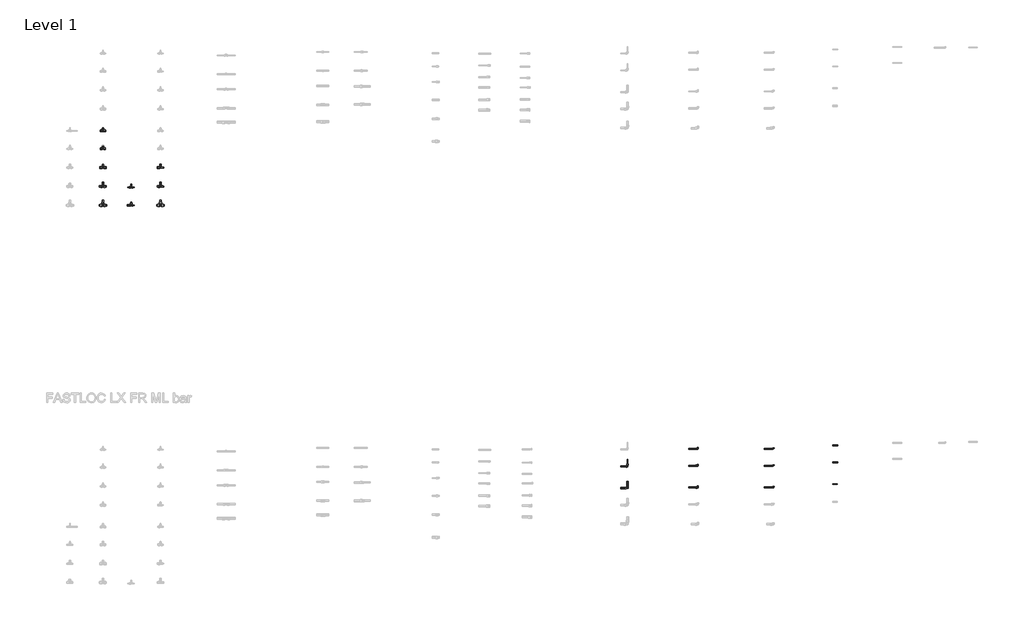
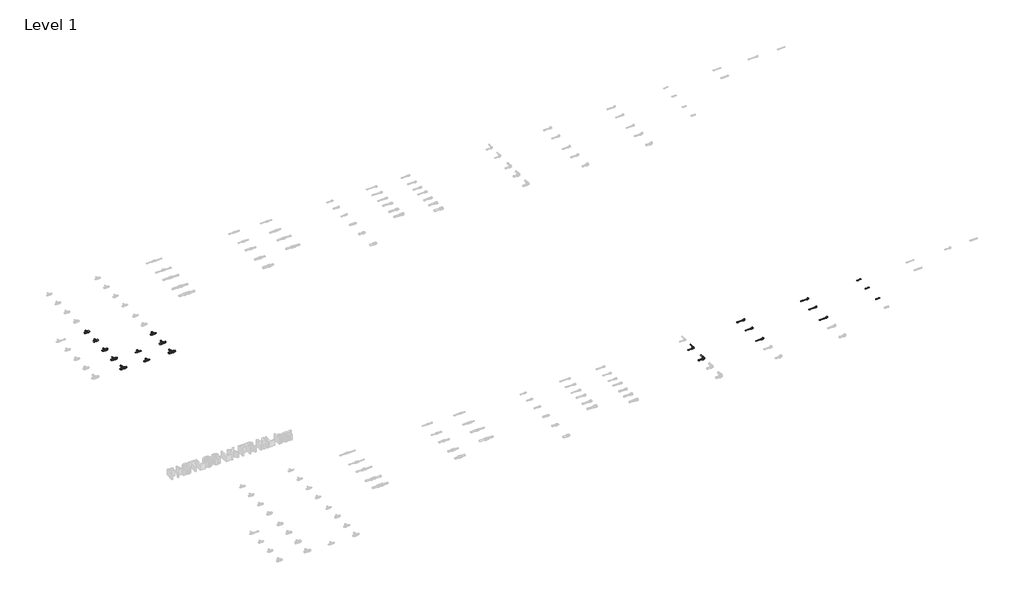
# One storey, part 12 of 78: 40 pipe segments, 18 pipe fittings.
"""IFC4 building model written with IfcOpenShell, lengths in millimetres."""

from ifc_helpers import new_model, si_unit, point, frame, frame_2d, origin, place, context, project, spatial, circle_curve, trimmed, segment, composite_curve, outline, extrude, transform, mapped, element, save
from components import pipe_fitting_8d4eabeb, pipe_fitting_310333dd, pipe_fitting_29102c59, pipe_fitting_7435f538, pipe_fitting_b40a3e3c, pipe_fitting_19df1a9e, pipe_fitting_16730f07, pipe_fitting_8d489ee2, pipe_fitting_c4e8b4db, pipe_fitting_e4b23f8c, pipe_fitting_5776f994

model = new_model("IFC4")

# Units and contexts
model_context = context("Model", 3, world=origin())
ifc_project = project(units=[si_unit("LENGTHUNIT", "METRE", prefix="MILLI")], contexts=[model_context])

# Site, building, storey
site = spatial("IfcSite", under=ifc_project)
building = spatial("IfcBuilding", under=site)
storey = spatial("IfcBuildingStorey", under=building, Name="Level 1", Elevation=0.0)

# Pipe fittings
placement = place(None, origin())
pipe_fitting_shape = pipe_fitting_8d4eabeb(model_context)
element("IfcPipeFitting", 1, ObjectType="FASTLOC_Elbow with female thread LX : FSL A internal FR", at=placement, inside=storey, context=model_context, shape_type="MappedRepresentation", body=[
    mapped(pipe_fitting_shape, transform((14636.9744513, -27124.4914884, 0.0), x_axis=(1.0, 0.0, 0.0), y_axis=(0.0, 1.0, 0.0), z_axis=(0.0, 0.0, 1.0))),
])
element("IfcPipeFitting", 2, ObjectType="FASTLOC_Elbow with female thread LX : FSL A internal FR", at=placement, inside=storey, context=model_context, shape_type="MappedRepresentation", body=[
    mapped(pipe_fitting_shape, transform((14636.9744513, -27484.4914884, 0.0), x_axis=(1.0, 0.0, 0.0), y_axis=(0.0, 1.0, 0.0), z_axis=(0.0, 0.0, 1.0))),
])
element("IfcPipeFitting", 3, ObjectType="FASTLOC_Elbow with female thread LX : FSL A internal FR", at=placement, inside=storey, context=model_context, shape_type="MappedRepresentation", body=[
    mapped(pipe_fitting_shape, transform((14636.9744513, -27944.4914884, 0.0), x_axis=(1.0, 0.0, 0.0), y_axis=(0.0, 1.0, 0.0), z_axis=(0.0, 0.0, 1.0))),
])
pipe_fitting_2_shape = pipe_fitting_310333dd(model_context)
element("IfcPipeFitting", 4, ObjectType="FASTLOC_Elbow with male thread LX : FSL A internal FR", at=placement, inside=storey, context=model_context, shape_type="MappedRepresentation", body=[
    mapped(pipe_fitting_2_shape, transform((13036.9744513, -27124.4914884, 0.0), x_axis=(1.0, 0.0, 0.0), y_axis=(0.0, 1.0, 0.0), z_axis=(0.0, 0.0, 1.0))),
])
element("IfcPipeFitting", 5, ObjectType="FASTLOC_Elbow with male thread LX : FSL A internal FR", at=placement, inside=storey, context=model_context, shape_type="MappedRepresentation", body=[
    mapped(pipe_fitting_2_shape, transform((13036.9744513, -27484.4914884, 0.0), x_axis=(1.0, 0.0, 0.0), y_axis=(0.0, 1.0, 0.0), z_axis=(0.0, 0.0, 1.0))),
])
element("IfcPipeFitting", 6, ObjectType="FASTLOC_Elbow with male thread LX : FSL A internal FR", at=placement, inside=storey, context=model_context, shape_type="MappedRepresentation", body=[
    mapped(pipe_fitting_2_shape, transform((13036.9744513, -27944.4914884, 0.0), x_axis=(1.0, 0.0, 0.0), y_axis=(0.0, 1.0, 0.0), z_axis=(0.0, 0.0, 1.0))),
])
pipe_fitting_3_shape = pipe_fitting_29102c59(model_context)
element("IfcPipeFitting", 7, ObjectType="FASTLOC_T-piece_LX : FSL T-Piece LX SK", at=placement, inside=storey, context=model_context, shape_type="MappedRepresentation", body=[
    mapped(pipe_fitting_3_shape, transform((426.7498072, -21960.2405791, 0.0), x_axis=(1.0, 0.0, 0.0), y_axis=(0.0, 1.0, 0.0), z_axis=(0.0, 0.0, 1.0))),
])
element("IfcPipeFitting", 8, ObjectType="FASTLOC_T-piece_LX : FSL T-Piece LX SK", at=placement, inside=storey, context=model_context, shape_type="MappedRepresentation", body=[
    mapped(pipe_fitting_3_shape, transform((1646.7498072, -21960.2405791, 0.0), x_axis=(1.0, 0.0, 0.0), y_axis=(0.0, 1.0, 0.0), z_axis=(0.0, 0.0, 1.0))),
])
pipe_fitting_4_shape = pipe_fitting_7435f538(model_context)
element("IfcPipeFitting", 9, ObjectType="FASTLOC_T-piece_LX : FSL T-Piece LX SK", at=placement, inside=storey, context=model_context, shape_type="MappedRepresentation", body=[
    mapped(pipe_fitting_4_shape, transform((426.7498072, -20380.2405791, 0.0), x_axis=(1.0, 0.0, 0.0), y_axis=(0.0, 1.0, 0.0), z_axis=(0.0, 0.0, 1.0))),
])
element("IfcPipeFitting", 10, ObjectType="FASTLOC_T-piece_LX : FSL T-Piece LX SK", at=placement, inside=storey, context=model_context, shape_type="MappedRepresentation", body=[
    mapped(pipe_fitting_4_shape, transform((426.7498072, -21160.2405791, 0.0), x_axis=(1.0, 0.0, 0.0), y_axis=(0.0, 1.0, 0.0), z_axis=(0.0, 0.0, 1.0))),
])
pipe_fitting_5_shape = pipe_fitting_b40a3e3c(model_context)
element("IfcPipeFitting", 11, ObjectType="FASTLOC_T-piece_LX : FSL T-Piece LX SK", at=placement, inside=storey, context=model_context, shape_type="MappedRepresentation", body=[
    mapped(pipe_fitting_5_shape, transform((426.7498072, -20760.2405791, 0.0), x_axis=(1.0, 0.0, 0.0), y_axis=(0.0, 1.0, 0.0), z_axis=(0.0, 0.0, 1.0))),
])
element("IfcPipeFitting", 12, ObjectType="FASTLOC_T-piece_LX : FSL T-Piece LX SK", at=placement, inside=storey, context=model_context, shape_type="MappedRepresentation", body=[
    mapped(pipe_fitting_5_shape, transform((426.7498072, -21560.2405791, 0.0), x_axis=(1.0, 0.0, 0.0), y_axis=(0.0, 1.0, 0.0), z_axis=(0.0, 0.0, 1.0))),
])
pipe_fitting_6_shape = pipe_fitting_19df1a9e(model_context)
element("IfcPipeFitting", 13, ObjectType="FASTLOC_T-piece_LX : FSL T-Piece LX SK", at=placement, inside=storey, context=model_context, shape_type="MappedRepresentation", body=[
    mapped(pipe_fitting_6_shape, transform((1026.7498072, -21580.2405791, 0.0), x_axis=(1.0, 0.0, 0.0), y_axis=(0.0, 1.0, 0.0), z_axis=(0.0, 0.0, 1.0))),
])
pipe_fitting_7_shape = pipe_fitting_16730f07(model_context)
element("IfcPipeFitting", 14, ObjectType="FASTLOC_T-piece_LX : FSL T-Piece LX SK", at=placement, inside=storey, context=model_context, shape_type="MappedRepresentation", body=[
    mapped(pipe_fitting_7_shape, transform((1026.7498072, -21960.2405791, 0.0), x_axis=(1.0, 0.0, 0.0), y_axis=(0.0, 1.0, 0.0), z_axis=(0.0, 0.0, 1.0))),
])
pipe_fitting_8_shape = pipe_fitting_8d489ee2(model_context)
element("IfcPipeFitting", 15, ObjectType="FASTLOC_T-piece_LX : FSL T-Piece LX SK", at=placement, inside=storey, context=model_context, shape_type="MappedRepresentation", body=[
    mapped(pipe_fitting_8_shape, transform((1646.7498072, -21160.2405791, 0.0), x_axis=(1.0, 0.0, 0.0), y_axis=(0.0, 1.0, 0.0), z_axis=(0.0, 0.0, 1.0))),
])
pipe_fitting_9_shape = pipe_fitting_c4e8b4db(model_context)
element("IfcPipeFitting", 16, ObjectType="FASTLOC_T-piece_LX : FSL T-Piece LX SK", at=placement, inside=storey, context=model_context, shape_type="MappedRepresentation", body=[
    mapped(pipe_fitting_9_shape, transform((1646.7498072, -21560.2405791, 0.0), x_axis=(1.0, 0.0, 0.0), y_axis=(0.0, 1.0, 0.0), z_axis=(0.0, 0.0, 1.0))),
])
pipe_fitting_10_shape = pipe_fitting_e4b23f8c(model_context)
element("IfcPipeFitting", 17, ObjectType="FASTLOC_Corner LX : FSL C LX FR", at=placement, inside=storey, context=model_context, shape_type="MappedRepresentation", body=[
    mapped(pipe_fitting_10_shape, transform((11545.4707441, -27498.8136389, 0.0), x_axis=(1.0, 0.0, 0.0), y_axis=(0.0, 1.0, 0.0), z_axis=(0.0, 0.0, 1.0))),
])
pipe_fitting_11_shape = pipe_fitting_5776f994(model_context)
element("IfcPipeFitting", 18, ObjectType="FASTLOC_Corner LX : FSL C LX FR", at=placement, inside=storey, context=model_context, shape_type="MappedRepresentation", body=[
    mapped(pipe_fitting_11_shape, transform((11545.4707441, -27958.8136389, 0.0), x_axis=(1.0, 0.0, 0.0), y_axis=(0.0, 1.0, 0.0), z_axis=(0.0, 0.0, 1.0))),
])

# Pipe segments
element("IfcPipeSegment", 19, ObjectType="FASTLOC LX ML SK bar", at=placement, inside=storey, context=model_context, shape_type="SweptSolid", body=[
    extrude(outline(composite_curve([segment(trimmed(circle_curve(frame_2d((-20380.2405791, 0.0)), 16.0), [point((-20396.2405791, 0.0))], [point((-20380.2405791, 16.0))], False, "CARTESIAN"), True, "CONTINUOUS"), segment(trimmed(circle_curve(frame_2d((-20380.2405791, 0.0)), 16.0), [point((-20380.2405791, 16.0))], [point((-20364.2405791, 0.0))], False, "CARTESIAN"), True, "CONTINUOUS"), segment(trimmed(circle_curve(frame_2d((-20380.2405791, 0.0)), 16.0), [point((-20364.2405791, 0.0))], [point((-20380.2405791, -16.0))], False, "CARTESIAN"), True, "CONTINUOUS"), segment(trimmed(circle_curve(frame_2d((-20380.2405791, 0.0)), 16.0), [point((-20380.2405791, -16.0))], [point((-20396.2405791, 0.0))], False, "CARTESIAN"), True, "CONTINUOUS")], self_intersect=False)), frame((446.9498072, 0.0, 0.0), z_axis=(1.0, 0.0, 0.0), x_axis=(0.0, 1.0, 0.0)), (0.0, 0.0, 1.0), 41.8),
])
element("IfcPipeSegment", 20, ObjectType="FASTLOC LX ML SK bar", at=placement, inside=storey, context=model_context, shape_type="SweptSolid", body=[
    extrude(outline(composite_curve([segment(trimmed(circle_curve(frame_2d((-20380.2405791, 0.0)), 16.0), [point((-20364.2405791, 0.0))], [point((-20380.2405791, -16.0))], False, "CARTESIAN"), True, "CONTINUOUS"), segment(trimmed(circle_curve(frame_2d((-20380.2405791, 0.0)), 16.0), [point((-20380.2405791, -16.0))], [point((-20396.2405791, 0.0))], False, "CARTESIAN"), True, "CONTINUOUS"), segment(trimmed(circle_curve(frame_2d((-20380.2405791, 0.0)), 16.0), [point((-20396.2405791, 0.0))], [point((-20380.2405791, 16.0))], False, "CARTESIAN"), True, "CONTINUOUS"), segment(trimmed(circle_curve(frame_2d((-20380.2405791, 0.0)), 16.0), [point((-20380.2405791, 16.0))], [point((-20364.2405791, 0.0))], False, "CARTESIAN"), True, "CONTINUOUS")], self_intersect=False)), frame((364.7498072, 0.0, 0.0), z_axis=(1.0, 0.0, 0.0), x_axis=(0.0, 1.0, 0.0)), (0.0, 0.0, 1.0), 41.8),
])
element("IfcPipeSegment", 21, ObjectType="FASTLOC LX ML SK bar", at=placement, inside=storey, context=model_context, shape_type="SweptSolid", body=[
    extrude(outline(composite_curve([segment(trimmed(circle_curve(frame_2d((0.0, 426.7498072)), 8.0), [point((0.0, 434.7498072))], [point((8.0, 426.7498072))], False, "CARTESIAN"), True, "CONTINUOUS"), segment(trimmed(circle_curve(frame_2d((0.0, 426.7498072)), 8.0), [point((8.0, 426.7498072))], [point((0.0, 418.7498072))], False, "CARTESIAN"), True, "CONTINUOUS"), segment(trimmed(circle_curve(frame_2d((0.0, 426.7498072)), 8.0), [point((0.0, 418.7498072))], [point((-8.0, 426.7498072))], False, "CARTESIAN"), True, "CONTINUOUS"), segment(trimmed(circle_curve(frame_2d((0.0, 426.7498072)), 8.0), [point((-8.0, 426.7498072))], [point((0.0, 434.7498072))], False, "CARTESIAN"), True, "CONTINUOUS")], self_intersect=False)), frame((0.0, -20346.2405791, 0.0), z_axis=(0.0, 1.0, 0.0), x_axis=(0.0, 0.0, 1.0)), (0.0, 0.0, 1.0), 38.3),
])
element("IfcPipeSegment", 22, ObjectType="FASTLOC LX ML SK bar", at=placement, inside=storey, context=model_context, shape_type="SweptSolid", body=[
    extrude(outline(composite_curve([segment(trimmed(circle_curve(frame_2d((-21160.2405791, 0.0)), 16.0), [point((-21176.2405791, 0.0))], [point((-21160.2405791, 16.0))], False, "CARTESIAN"), True, "CONTINUOUS"), segment(trimmed(circle_curve(frame_2d((-21160.2405791, 0.0)), 16.0), [point((-21160.2405791, 16.0))], [point((-21144.2405791, 0.0))], False, "CARTESIAN"), True, "CONTINUOUS"), segment(trimmed(circle_curve(frame_2d((-21160.2405791, 0.0)), 16.0), [point((-21144.2405791, 0.0))], [point((-21160.2405791, -16.0))], False, "CARTESIAN"), True, "CONTINUOUS"), segment(trimmed(circle_curve(frame_2d((-21160.2405791, 0.0)), 16.0), [point((-21160.2405791, -16.0))], [point((-21176.2405791, 0.0))], False, "CARTESIAN"), True, "CONTINUOUS")], self_intersect=False)), frame((446.9498072, 0.0, 0.0), z_axis=(1.0, 0.0, 0.0), x_axis=(0.0, 1.0, 0.0)), (0.0, 0.0, 1.0), 48.8),
])
element("IfcPipeSegment", 23, ObjectType="FASTLOC LX ML SK bar", at=placement, inside=storey, context=model_context, shape_type="SweptSolid", body=[
    extrude(outline(composite_curve([segment(trimmed(circle_curve(frame_2d((-21160.2405791, 0.0)), 16.0), [point((-21144.2405791, 0.0))], [point((-21160.2405791, -16.0))], False, "CARTESIAN"), True, "CONTINUOUS"), segment(trimmed(circle_curve(frame_2d((-21160.2405791, 0.0)), 16.0), [point((-21160.2405791, -16.0))], [point((-21176.2405791, 0.0))], False, "CARTESIAN"), True, "CONTINUOUS"), segment(trimmed(circle_curve(frame_2d((-21160.2405791, 0.0)), 16.0), [point((-21176.2405791, 0.0))], [point((-21160.2405791, 16.0))], False, "CARTESIAN"), True, "CONTINUOUS"), segment(trimmed(circle_curve(frame_2d((-21160.2405791, 0.0)), 16.0), [point((-21160.2405791, 16.0))], [point((-21144.2405791, 0.0))], False, "CARTESIAN"), True, "CONTINUOUS")], self_intersect=False)), frame((357.7498072, 0.0, 0.0), z_axis=(1.0, 0.0, 0.0), x_axis=(0.0, 1.0, 0.0)), (0.0, 0.0, 1.0), 48.8),
])
element("IfcPipeSegment", 24, ObjectType="FASTLOC LX ML SK bar", at=placement, inside=storey, context=model_context, shape_type="SweptSolid", body=[
    extrude(outline(composite_curve([segment(trimmed(circle_curve(frame_2d((0.0, 426.7498072)), 8.0), [point((0.0, 434.7498072))], [point((8.0, 426.7498072))], False, "CARTESIAN"), True, "CONTINUOUS"), segment(trimmed(circle_curve(frame_2d((0.0, 426.7498072)), 8.0), [point((8.0, 426.7498072))], [point((0.0, 418.7498072))], False, "CARTESIAN"), True, "CONTINUOUS"), segment(trimmed(circle_curve(frame_2d((0.0, 426.7498072)), 8.0), [point((0.0, 418.7498072))], [point((-8.0, 426.7498072))], False, "CARTESIAN"), True, "CONTINUOUS"), segment(trimmed(circle_curve(frame_2d((0.0, 426.7498072)), 8.0), [point((-8.0, 426.7498072))], [point((0.0, 434.7498072))], False, "CARTESIAN"), True, "CONTINUOUS")], self_intersect=False)), frame((0.0, -21126.2405791, 0.0), z_axis=(0.0, 1.0, 0.0), x_axis=(0.0, 0.0, 1.0)), (0.0, 0.0, 1.0), 38.3),
])
element("IfcPipeSegment", 25, ObjectType="FASTLOC LX ML SK bar", at=placement, inside=storey, context=model_context, shape_type="SweptSolid", body=[
    extrude(outline(composite_curve([segment(trimmed(circle_curve(frame_2d((-21560.2405791, 0.0)), 16.0), [point((-21576.2405791, 0.0))], [point((-21560.2405791, 16.0))], False, "CARTESIAN"), True, "CONTINUOUS"), segment(trimmed(circle_curve(frame_2d((-21560.2405791, 0.0)), 16.0), [point((-21560.2405791, 16.0))], [point((-21544.2405791, 0.0))], False, "CARTESIAN"), True, "CONTINUOUS"), segment(trimmed(circle_curve(frame_2d((-21560.2405791, 0.0)), 16.0), [point((-21544.2405791, 0.0))], [point((-21560.2405791, -16.0))], False, "CARTESIAN"), True, "CONTINUOUS"), segment(trimmed(circle_curve(frame_2d((-21560.2405791, 0.0)), 16.0), [point((-21560.2405791, -16.0))], [point((-21576.2405791, 0.0))], False, "CARTESIAN"), True, "CONTINUOUS")], self_intersect=False)), frame((448.7498072, 0.0, 0.0), z_axis=(1.0, 0.0, 0.0), x_axis=(0.0, 1.0, 0.0)), (0.0, 0.0, 1.0), 51.6),
])
element("IfcPipeSegment", 26, ObjectType="FASTLOC LX ML SK bar", at=placement, inside=storey, context=model_context, shape_type="SweptSolid", body=[
    extrude(outline(composite_curve([segment(trimmed(circle_curve(frame_2d((-21560.2405791, 0.0)), 16.0), [point((-21544.2405791, 0.0))], [point((-21560.2405791, -16.0))], False, "CARTESIAN"), True, "CONTINUOUS"), segment(trimmed(circle_curve(frame_2d((-21560.2405791, 0.0)), 16.0), [point((-21560.2405791, -16.0))], [point((-21576.2405791, 0.0))], False, "CARTESIAN"), True, "CONTINUOUS"), segment(trimmed(circle_curve(frame_2d((-21560.2405791, 0.0)), 16.0), [point((-21576.2405791, 0.0))], [point((-21560.2405791, 16.0))], False, "CARTESIAN"), True, "CONTINUOUS"), segment(trimmed(circle_curve(frame_2d((-21560.2405791, 0.0)), 16.0), [point((-21560.2405791, 16.0))], [point((-21544.2405791, 0.0))], False, "CARTESIAN"), True, "CONTINUOUS")], self_intersect=False)), frame((353.1498072, 0.0, 0.0), z_axis=(1.0, 0.0, 0.0), x_axis=(0.0, 1.0, 0.0)), (0.0, 0.0, 1.0), 51.6),
])
element("IfcPipeSegment", 27, ObjectType="FASTLOC LX ML SK bar", at=placement, inside=storey, context=model_context, shape_type="SweptSolid", body=[
    extrude(outline(composite_curve([segment(trimmed(circle_curve(frame_2d((0.0, 426.7498072)), 12.5), [point((0.0, 439.2498072))], [point((12.5, 426.7498072))], False, "CARTESIAN"), True, "CONTINUOUS"), segment(trimmed(circle_curve(frame_2d((0.0, 426.7498072)), 12.5), [point((12.5, 426.7498072))], [point((0.0, 414.2498072))], False, "CARTESIAN"), True, "CONTINUOUS"), segment(trimmed(circle_curve(frame_2d((0.0, 426.7498072)), 12.5), [point((0.0, 414.2498072))], [point((-12.5, 426.7498072))], False, "CARTESIAN"), True, "CONTINUOUS"), segment(trimmed(circle_curve(frame_2d((0.0, 426.7498072)), 12.5), [point((-12.5, 426.7498072))], [point((0.0, 439.2498072))], False, "CARTESIAN"), True, "CONTINUOUS")], self_intersect=False)), frame((0.0, -21525.8405791, 0.0), z_axis=(0.0, 1.0, 0.0), x_axis=(0.0, 0.0, 1.0)), (0.0, 0.0, 1.0), 53.4),
])
element("IfcPipeSegment", 28, ObjectType="FASTLOC LX ML SK bar", at=placement, inside=storey, context=model_context, shape_type="SweptSolid", body=[
    extrude(outline(composite_curve([segment(trimmed(circle_curve(frame_2d((-21960.2405791, 0.0)), 16.0), [point((-21976.2405791, 0.0))], [point((-21960.2405791, 16.0))], False, "CARTESIAN"), True, "CONTINUOUS"), segment(trimmed(circle_curve(frame_2d((-21960.2405791, 0.0)), 16.0), [point((-21960.2405791, 16.0))], [point((-21944.2405791, 0.0))], False, "CARTESIAN"), True, "CONTINUOUS"), segment(trimmed(circle_curve(frame_2d((-21960.2405791, 0.0)), 16.0), [point((-21944.2405791, 0.0))], [point((-21960.2405791, -16.0))], False, "CARTESIAN"), True, "CONTINUOUS"), segment(trimmed(circle_curve(frame_2d((-21960.2405791, 0.0)), 16.0), [point((-21960.2405791, -16.0))], [point((-21976.2405791, 0.0))], False, "CARTESIAN"), True, "CONTINUOUS")], self_intersect=False)), frame((451.5498072, 0.0, 0.0), z_axis=(1.0, 0.0, 0.0), x_axis=(0.0, 1.0, 0.0)), (0.0, 0.0, 1.0), 56.6),
])
element("IfcPipeSegment", 29, ObjectType="FASTLOC LX ML SK bar", at=placement, inside=storey, context=model_context, shape_type="SweptSolid", body=[
    extrude(outline(composite_curve([segment(trimmed(circle_curve(frame_2d((-21960.2405791, 0.0)), 16.0), [point((-21944.2405791, 0.0))], [point((-21960.2405791, -16.0))], False, "CARTESIAN"), True, "CONTINUOUS"), segment(trimmed(circle_curve(frame_2d((-21960.2405791, 0.0)), 16.0), [point((-21960.2405791, -16.0))], [point((-21976.2405791, 0.0))], False, "CARTESIAN"), True, "CONTINUOUS"), segment(trimmed(circle_curve(frame_2d((-21960.2405791, 0.0)), 16.0), [point((-21976.2405791, 0.0))], [point((-21960.2405791, 16.0))], False, "CARTESIAN"), True, "CONTINUOUS"), segment(trimmed(circle_curve(frame_2d((-21960.2405791, 0.0)), 16.0), [point((-21960.2405791, 16.0))], [point((-21944.2405791, 0.0))], False, "CARTESIAN"), True, "CONTINUOUS")], self_intersect=False)), frame((345.3498072, 0.0, 0.0), z_axis=(1.0, 0.0, 0.0), x_axis=(0.0, 1.0, 0.0)), (0.0, 0.0, 1.0), 56.6),
])
element("IfcPipeSegment", 30, ObjectType="FASTLOC LX ML SK bar", at=placement, inside=storey, context=model_context, shape_type="SweptSolid", body=[
    extrude(outline(composite_curve([segment(trimmed(circle_curve(frame_2d((0.0, 426.7498072)), 16.0), [point((0.0, 442.7498072))], [point((16.0, 426.7498072))], False, "CARTESIAN"), True, "CONTINUOUS"), segment(trimmed(circle_curve(frame_2d((0.0, 426.7498072)), 16.0), [point((16.0, 426.7498072))], [point((0.0, 410.7498072))], False, "CARTESIAN"), True, "CONTINUOUS"), segment(trimmed(circle_curve(frame_2d((0.0, 426.7498072)), 16.0), [point((0.0, 410.7498072))], [point((-16.0, 426.7498072))], False, "CARTESIAN"), True, "CONTINUOUS"), segment(trimmed(circle_curve(frame_2d((0.0, 426.7498072)), 16.0), [point((-16.0, 426.7498072))], [point((0.0, 442.7498072))], False, "CARTESIAN"), True, "CONTINUOUS")], self_intersect=False)), frame((0.0, -21924.1405791, 0.0), z_axis=(0.0, 1.0, 0.0), x_axis=(0.0, 0.0, 1.0)), (0.0, 0.0, 1.0), 71.5),
])
element("IfcPipeSegment", 31, ObjectType="FASTLOC LX ML SK bar", at=placement, inside=storey, context=model_context, shape_type="SweptSolid", body=[
    extrude(outline(composite_curve([segment(trimmed(circle_curve(frame_2d((-21580.2405791, 0.0)), 8.0), [point((-21588.2405791, 0.0))], [point((-21580.2405791, 8.0))], False, "CARTESIAN"), True, "CONTINUOUS"), segment(trimmed(circle_curve(frame_2d((-21580.2405791, 0.0)), 8.0), [point((-21580.2405791, 8.0))], [point((-21572.2405791, 0.0))], False, "CARTESIAN"), True, "CONTINUOUS"), segment(trimmed(circle_curve(frame_2d((-21580.2405791, 0.0)), 8.0), [point((-21572.2405791, 0.0))], [point((-21580.2405791, -8.0))], False, "CARTESIAN"), True, "CONTINUOUS"), segment(trimmed(circle_curve(frame_2d((-21580.2405791, 0.0)), 8.0), [point((-21580.2405791, -8.0))], [point((-21588.2405791, 0.0))], False, "CARTESIAN"), True, "CONTINUOUS")], self_intersect=False)), frame((1043.7498072, 0.0, 0.0), z_axis=(1.0, 0.0, 0.0), x_axis=(0.0, 1.0, 0.0)), (0.0, 0.0, 1.0), 45.0),
])
element("IfcPipeSegment", 32, ObjectType="FASTLOC LX ML SK bar", at=placement, inside=storey, context=model_context, shape_type="SweptSolid", body=[
    extrude(outline(composite_curve([segment(trimmed(circle_curve(frame_2d((-21580.2405791, 0.0)), 8.0), [point((-21572.2405791, 0.0))], [point((-21580.2405791, -8.0))], False, "CARTESIAN"), True, "CONTINUOUS"), segment(trimmed(circle_curve(frame_2d((-21580.2405791, 0.0)), 8.0), [point((-21580.2405791, -8.0))], [point((-21588.2405791, 0.0))], False, "CARTESIAN"), True, "CONTINUOUS"), segment(trimmed(circle_curve(frame_2d((-21580.2405791, 0.0)), 8.0), [point((-21588.2405791, 0.0))], [point((-21580.2405791, 8.0))], False, "CARTESIAN"), True, "CONTINUOUS"), segment(trimmed(circle_curve(frame_2d((-21580.2405791, 0.0)), 8.0), [point((-21580.2405791, 8.0))], [point((-21572.2405791, 0.0))], False, "CARTESIAN"), True, "CONTINUOUS")], self_intersect=False)), frame((949.3498072, 0.0, 0.0), z_axis=(1.0, 0.0, 0.0), x_axis=(0.0, 1.0, 0.0)), (0.0, 0.0, 1.0), 60.0),
])
element("IfcPipeSegment", 33, ObjectType="FASTLOC LX ML SK bar", at=placement, inside=storey, context=model_context, shape_type="SweptSolid", body=[
    extrude(outline(composite_curve([segment(trimmed(circle_curve(frame_2d((0.0, 1026.7498072)), 8.0), [point((0.0, 1034.7498072))], [point((8.0, 1026.7498072))], False, "CARTESIAN"), True, "CONTINUOUS"), segment(trimmed(circle_curve(frame_2d((0.0, 1026.7498072)), 8.0), [point((8.0, 1026.7498072))], [point((0.0, 1018.7498072))], False, "CARTESIAN"), True, "CONTINUOUS"), segment(trimmed(circle_curve(frame_2d((0.0, 1026.7498072)), 8.0), [point((0.0, 1018.7498072))], [point((-8.0, 1026.7498072))], False, "CARTESIAN"), True, "CONTINUOUS"), segment(trimmed(circle_curve(frame_2d((0.0, 1026.7498072)), 8.0), [point((-8.0, 1026.7498072))], [point((0.0, 1034.7498072))], False, "CARTESIAN"), True, "CONTINUOUS")], self_intersect=False)), frame((0.0, -21553.8405791, 0.0), z_axis=(0.0, 1.0, 0.0), x_axis=(0.0, 0.0, 1.0)), (0.0, 0.0, 1.0), 45.9),
])
element("IfcPipeSegment", 34, ObjectType="FASTLOC LX ML SK bar", at=placement, inside=storey, context=model_context, shape_type="SweptSolid", body=[
    extrude(outline(composite_curve([segment(trimmed(circle_curve(frame_2d((-21960.2405791, 0.0)), 8.0), [point((-21968.2405791, 0.0))], [point((-21960.2405791, 8.0))], False, "CARTESIAN"), True, "CONTINUOUS"), segment(trimmed(circle_curve(frame_2d((-21960.2405791, 0.0)), 8.0), [point((-21960.2405791, 8.0))], [point((-21952.2405791, 0.0))], False, "CARTESIAN"), True, "CONTINUOUS"), segment(trimmed(circle_curve(frame_2d((-21960.2405791, 0.0)), 8.0), [point((-21952.2405791, 0.0))], [point((-21960.2405791, -8.0))], False, "CARTESIAN"), True, "CONTINUOUS"), segment(trimmed(circle_curve(frame_2d((-21960.2405791, 0.0)), 8.0), [point((-21960.2405791, -8.0))], [point((-21968.2405791, 0.0))], False, "CARTESIAN"), True, "CONTINUOUS")], self_intersect=False)), frame((1045.5498072, 0.0, 0.0), z_axis=(1.0, 0.0, 0.0), x_axis=(0.0, 1.0, 0.0)), (0.0, 0.0, 1.0), 43.2),
])
element("IfcPipeSegment", 35, ObjectType="FASTLOC LX ML SK bar", at=placement, inside=storey, context=model_context, shape_type="SweptSolid", body=[
    extrude(outline(composite_curve([segment(trimmed(circle_curve(frame_2d((-21960.2405791, 0.0)), 12.5), [point((-21947.7405791, 0.0))], [point((-21960.2405791, -12.5))], False, "CARTESIAN"), True, "CONTINUOUS"), segment(trimmed(circle_curve(frame_2d((-21960.2405791, 0.0)), 12.5), [point((-21960.2405791, -12.5))], [point((-21972.7405791, 0.0))], False, "CARTESIAN"), True, "CONTINUOUS"), segment(trimmed(circle_curve(frame_2d((-21960.2405791, 0.0)), 12.5), [point((-21972.7405791, 0.0))], [point((-21960.2405791, 12.5))], False, "CARTESIAN"), True, "CONTINUOUS"), segment(trimmed(circle_curve(frame_2d((-21960.2405791, 0.0)), 12.5), [point((-21960.2405791, 12.5))], [point((-21947.7405791, 0.0))], False, "CARTESIAN"), True, "CONTINUOUS")], self_intersect=False)), frame((944.3498072, 0.0, 0.0), z_axis=(1.0, 0.0, 0.0), x_axis=(0.0, 1.0, 0.0)), (0.0, 0.0, 1.0), 62.3),
])
element("IfcPipeSegment", 36, ObjectType="FASTLOC LX ML SK bar", at=placement, inside=storey, context=model_context, shape_type="SweptSolid", body=[
    extrude(outline(composite_curve([segment(trimmed(circle_curve(frame_2d((0.0, 1026.7498072)), 12.5), [point((0.0, 1039.2498072))], [point((12.5, 1026.7498072))], False, "CARTESIAN"), True, "CONTINUOUS"), segment(trimmed(circle_curve(frame_2d((0.0, 1026.7498072)), 12.5), [point((12.5, 1026.7498072))], [point((0.0, 1014.2498072))], False, "CARTESIAN"), True, "CONTINUOUS"), segment(trimmed(circle_curve(frame_2d((0.0, 1026.7498072)), 12.5), [point((0.0, 1014.2498072))], [point((-12.5, 1026.7498072))], False, "CARTESIAN"), True, "CONTINUOUS"), segment(trimmed(circle_curve(frame_2d((0.0, 1026.7498072)), 12.5), [point((-12.5, 1026.7498072))], [point((0.0, 1039.2498072))], False, "CARTESIAN"), True, "CONTINUOUS")], self_intersect=False)), frame((0.0, -21930.7405791, 0.0), z_axis=(0.0, 1.0, 0.0), x_axis=(0.0, 0.0, 1.0)), (0.0, 0.0, 1.0), 42.8),
])
element("IfcPipeSegment", 37, ObjectType="FASTLOC LX ML SK bar", at=placement, inside=storey, context=model_context, shape_type="SweptSolid", body=[
    extrude(outline(composite_curve([segment(trimmed(circle_curve(frame_2d((-21160.2405791, 0.0)), 8.0), [point((-21168.2405791, 0.0))], [point((-21160.2405791, 8.0))], False, "CARTESIAN"), True, "CONTINUOUS"), segment(trimmed(circle_curve(frame_2d((-21160.2405791, 0.0)), 8.0), [point((-21160.2405791, 8.0))], [point((-21152.2405791, 0.0))], False, "CARTESIAN"), True, "CONTINUOUS"), segment(trimmed(circle_curve(frame_2d((-21160.2405791, 0.0)), 8.0), [point((-21152.2405791, 0.0))], [point((-21160.2405791, -8.0))], False, "CARTESIAN"), True, "CONTINUOUS"), segment(trimmed(circle_curve(frame_2d((-21160.2405791, 0.0)), 8.0), [point((-21160.2405791, -8.0))], [point((-21168.2405791, 0.0))], False, "CARTESIAN"), True, "CONTINUOUS")], self_intersect=False)), frame((1665.9498072, 0.0, 0.0), z_axis=(1.0, 0.0, 0.0), x_axis=(0.0, 1.0, 0.0)), (0.0, 0.0, 1.0), 49.8),
])
element("IfcPipeSegment", 38, ObjectType="FASTLOC LX ML SK bar", at=placement, inside=storey, context=model_context, shape_type="SweptSolid", body=[
    extrude(outline(composite_curve([segment(trimmed(circle_curve(frame_2d((-21160.2405791, 0.0)), 16.0), [point((-21144.2405791, 0.0))], [point((-21160.2405791, -16.0))], False, "CARTESIAN"), True, "CONTINUOUS"), segment(trimmed(circle_curve(frame_2d((-21160.2405791, 0.0)), 16.0), [point((-21160.2405791, -16.0))], [point((-21176.2405791, 0.0))], False, "CARTESIAN"), True, "CONTINUOUS"), segment(trimmed(circle_curve(frame_2d((-21160.2405791, 0.0)), 16.0), [point((-21176.2405791, 0.0))], [point((-21160.2405791, 16.0))], False, "CARTESIAN"), True, "CONTINUOUS"), segment(trimmed(circle_curve(frame_2d((-21160.2405791, 0.0)), 16.0), [point((-21160.2405791, 16.0))], [point((-21144.2405791, 0.0))], False, "CARTESIAN"), True, "CONTINUOUS")], self_intersect=False)), frame((1577.7498072, 0.0, 0.0), z_axis=(1.0, 0.0, 0.0), x_axis=(0.0, 1.0, 0.0)), (0.0, 0.0, 1.0), 46.9),
])
element("IfcPipeSegment", 39, ObjectType="FASTLOC LX ML SK bar", at=placement, inside=storey, context=model_context, shape_type="SweptSolid", body=[
    extrude(outline(composite_curve([segment(trimmed(circle_curve(frame_2d((0.0, 1646.7498072)), 12.5), [point((0.0, 1659.2498072))], [point((12.5, 1646.7498072))], False, "CARTESIAN"), True, "CONTINUOUS"), segment(trimmed(circle_curve(frame_2d((0.0, 1646.7498072)), 12.5), [point((12.5, 1646.7498072))], [point((0.0, 1634.2498072))], False, "CARTESIAN"), True, "CONTINUOUS"), segment(trimmed(circle_curve(frame_2d((0.0, 1646.7498072)), 12.5), [point((0.0, 1634.2498072))], [point((-12.5, 1646.7498072))], False, "CARTESIAN"), True, "CONTINUOUS"), segment(trimmed(circle_curve(frame_2d((0.0, 1646.7498072)), 12.5), [point((-12.5, 1646.7498072))], [point((0.0, 1659.2498072))], False, "CARTESIAN"), True, "CONTINUOUS")], self_intersect=False)), frame((0.0, -21125.8405791, 0.0), z_axis=(0.0, 1.0, 0.0), x_axis=(0.0, 0.0, 1.0)), (0.0, 0.0, 1.0), 37.9),
])
element("IfcPipeSegment", 40, ObjectType="FASTLOC LX ML SK bar", at=placement, inside=storey, context=model_context, shape_type="SweptSolid", body=[
    extrude(outline(composite_curve([segment(trimmed(circle_curve(frame_2d((-21560.2405791, 0.0)), 12.5), [point((-21572.7405791, 0.0))], [point((-21560.2405791, 12.5))], False, "CARTESIAN"), True, "CONTINUOUS"), segment(trimmed(circle_curve(frame_2d((-21560.2405791, 0.0)), 12.5), [point((-21560.2405791, 12.5))], [point((-21547.7405791, 0.0))], False, "CARTESIAN"), True, "CONTINUOUS"), segment(trimmed(circle_curve(frame_2d((-21560.2405791, 0.0)), 12.5), [point((-21547.7405791, 0.0))], [point((-21560.2405791, -12.5))], False, "CARTESIAN"), True, "CONTINUOUS"), segment(trimmed(circle_curve(frame_2d((-21560.2405791, 0.0)), 12.5), [point((-21560.2405791, -12.5))], [point((-21572.7405791, 0.0))], False, "CARTESIAN"), True, "CONTINUOUS")], self_intersect=False)), frame((1666.8498072, 0.0, 0.0), z_axis=(1.0, 0.0, 0.0), x_axis=(0.0, 1.0, 0.0)), (0.0, 0.0, 1.0), 53.5),
])
element("IfcPipeSegment", 41, ObjectType="FASTLOC LX ML SK bar", at=placement, inside=storey, context=model_context, shape_type="SweptSolid", body=[
    extrude(outline(composite_curve([segment(trimmed(circle_curve(frame_2d((-21560.2405791, 0.0)), 16.0), [point((-21544.2405791, 0.0))], [point((-21560.2405791, -16.0))], False, "CARTESIAN"), True, "CONTINUOUS"), segment(trimmed(circle_curve(frame_2d((-21560.2405791, 0.0)), 16.0), [point((-21560.2405791, -16.0))], [point((-21576.2405791, 0.0))], False, "CARTESIAN"), True, "CONTINUOUS"), segment(trimmed(circle_curve(frame_2d((-21560.2405791, 0.0)), 16.0), [point((-21576.2405791, 0.0))], [point((-21560.2405791, 16.0))], False, "CARTESIAN"), True, "CONTINUOUS"), segment(trimmed(circle_curve(frame_2d((-21560.2405791, 0.0)), 16.0), [point((-21560.2405791, 16.0))], [point((-21544.2405791, 0.0))], False, "CARTESIAN"), True, "CONTINUOUS")], self_intersect=False)), frame((1573.1498072, 0.0, 0.0), z_axis=(1.0, 0.0, 0.0), x_axis=(0.0, 1.0, 0.0)), (0.0, 0.0, 1.0), 51.5),
])
element("IfcPipeSegment", 42, ObjectType="FASTLOC LX ML SK bar", at=placement, inside=storey, context=model_context, shape_type="SweptSolid", body=[
    extrude(outline(composite_curve([segment(trimmed(circle_curve(frame_2d((0.0, 1646.7498072)), 12.5), [point((0.0, 1659.2498072))], [point((12.5, 1646.7498072))], False, "CARTESIAN"), True, "CONTINUOUS"), segment(trimmed(circle_curve(frame_2d((0.0, 1646.7498072)), 12.5), [point((12.5, 1646.7498072))], [point((0.0, 1634.2498072))], False, "CARTESIAN"), True, "CONTINUOUS"), segment(trimmed(circle_curve(frame_2d((0.0, 1646.7498072)), 12.5), [point((0.0, 1634.2498072))], [point((-12.5, 1646.7498072))], False, "CARTESIAN"), True, "CONTINUOUS"), segment(trimmed(circle_curve(frame_2d((0.0, 1646.7498072)), 12.5), [point((-12.5, 1646.7498072))], [point((0.0, 1659.2498072))], False, "CARTESIAN"), True, "CONTINUOUS")], self_intersect=False)), frame((0.0, -21525.8405791, 0.0), z_axis=(0.0, 1.0, 0.0), x_axis=(0.0, 0.0, 1.0)), (0.0, 0.0, 1.0), 53.4),
])
element("IfcPipeSegment", 43, ObjectType="FASTLOC LX ML SK bar", at=placement, inside=storey, context=model_context, shape_type="SweptSolid", body=[
    extrude(outline(composite_curve([segment(trimmed(circle_curve(frame_2d((-21960.2405791, 0.0)), 16.0), [point((-21976.2405791, 0.0))], [point((-21960.2405791, 16.0))], False, "CARTESIAN"), True, "CONTINUOUS"), segment(trimmed(circle_curve(frame_2d((-21960.2405791, 0.0)), 16.0), [point((-21960.2405791, 16.0))], [point((-21944.2405791, 0.0))], False, "CARTESIAN"), True, "CONTINUOUS"), segment(trimmed(circle_curve(frame_2d((-21960.2405791, 0.0)), 16.0), [point((-21944.2405791, 0.0))], [point((-21960.2405791, -16.0))], False, "CARTESIAN"), True, "CONTINUOUS"), segment(trimmed(circle_curve(frame_2d((-21960.2405791, 0.0)), 16.0), [point((-21960.2405791, -16.0))], [point((-21976.2405791, 0.0))], False, "CARTESIAN"), True, "CONTINUOUS")], self_intersect=False)), frame((1671.5498072, 0.0, 0.0), z_axis=(1.0, 0.0, 0.0), x_axis=(0.0, 1.0, 0.0)), (0.0, 0.0, 1.0), 56.6),
])
element("IfcPipeSegment", 44, ObjectType="FASTLOC LX ML SK bar", at=placement, inside=storey, context=model_context, shape_type="SweptSolid", body=[
    extrude(outline(composite_curve([segment(trimmed(circle_curve(frame_2d((-21960.2405791, 0.0)), 16.0), [point((-21944.2405791, 0.0))], [point((-21960.2405791, -16.0))], False, "CARTESIAN"), True, "CONTINUOUS"), segment(trimmed(circle_curve(frame_2d((-21960.2405791, 0.0)), 16.0), [point((-21960.2405791, -16.0))], [point((-21976.2405791, 0.0))], False, "CARTESIAN"), True, "CONTINUOUS"), segment(trimmed(circle_curve(frame_2d((-21960.2405791, 0.0)), 16.0), [point((-21976.2405791, 0.0))], [point((-21960.2405791, 16.0))], False, "CARTESIAN"), True, "CONTINUOUS"), segment(trimmed(circle_curve(frame_2d((-21960.2405791, 0.0)), 16.0), [point((-21960.2405791, 16.0))], [point((-21944.2405791, 0.0))], False, "CARTESIAN"), True, "CONTINUOUS")], self_intersect=False)), frame((1565.3498072, 0.0, 0.0), z_axis=(1.0, 0.0, 0.0), x_axis=(0.0, 1.0, 0.0)), (0.0, 0.0, 1.0), 56.6),
])
element("IfcPipeSegment", 45, ObjectType="FASTLOC LX ML SK bar", at=placement, inside=storey, context=model_context, shape_type="SweptSolid", body=[
    extrude(outline(composite_curve([segment(trimmed(circle_curve(frame_2d((0.0, 1646.7498072)), 16.0), [point((0.0, 1662.7498072))], [point((16.0, 1646.7498072))], False, "CARTESIAN"), True, "CONTINUOUS"), segment(trimmed(circle_curve(frame_2d((0.0, 1646.7498072)), 16.0), [point((16.0, 1646.7498072))], [point((0.0, 1630.7498072))], False, "CARTESIAN"), True, "CONTINUOUS"), segment(trimmed(circle_curve(frame_2d((0.0, 1646.7498072)), 16.0), [point((0.0, 1630.7498072))], [point((-16.0, 1646.7498072))], False, "CARTESIAN"), True, "CONTINUOUS"), segment(trimmed(circle_curve(frame_2d((0.0, 1646.7498072)), 16.0), [point((-16.0, 1646.7498072))], [point((0.0, 1662.7498072))], False, "CARTESIAN"), True, "CONTINUOUS")], self_intersect=False)), frame((0.0, -21924.1405791, 0.0), z_axis=(0.0, 1.0, 0.0), x_axis=(0.0, 0.0, 1.0)), (0.0, 0.0, 1.0), 71.5),
])
element("IfcPipeSegment", 46, ObjectType="FASTLOC LX ML FR bar", at=placement, inside=storey, context=model_context, shape_type="SweptSolid", body=[
    extrude(outline(composite_curve([segment(trimmed(circle_curve(frame_2d((-27498.8136389, 0.0)), 8.0), [point((-27490.8136389, 0.0))], [point((-27498.8136389, -8.0))], False, "CARTESIAN"), True, "CONTINUOUS"), segment(trimmed(circle_curve(frame_2d((-27498.8136389, 0.0)), 8.0), [point((-27498.8136389, -8.0))], [point((-27506.8136389, 0.0))], False, "CARTESIAN"), True, "CONTINUOUS"), segment(trimmed(circle_curve(frame_2d((-27498.8136389, 0.0)), 8.0), [point((-27506.8136389, 0.0))], [point((-27498.8136389, 8.0))], False, "CARTESIAN"), True, "CONTINUOUS"), segment(trimmed(circle_curve(frame_2d((-27498.8136389, 0.0)), 8.0), [point((-27498.8136389, 8.0))], [point((-27490.8136389, 0.0))], False, "CARTESIAN"), True, "CONTINUOUS")], self_intersect=False)), frame((11403.3707441, 0.0, 0.0), z_axis=(1.0, 0.0, 0.0), x_axis=(0.0, 1.0, 0.0)), (0.0, 0.0, 1.0), 117.5),
])
element("IfcPipeSegment", 47, ObjectType="FASTLOC LX ML FR bar", at=placement, inside=storey, context=model_context, shape_type="SweptSolid", body=[
    extrude(outline(composite_curve([segment(trimmed(circle_curve(frame_2d((0.0, 11545.4707441)), 8.0), [point((0.0, 11553.4707441))], [point((8.0, 11545.4707441))], False, "CARTESIAN"), True, "CONTINUOUS"), segment(trimmed(circle_curve(frame_2d((0.0, 11545.4707441)), 8.0), [point((8.0, 11545.4707441))], [point((0.0, 11537.4707441))], False, "CARTESIAN"), True, "CONTINUOUS"), segment(trimmed(circle_curve(frame_2d((0.0, 11545.4707441)), 8.0), [point((0.0, 11537.4707441))], [point((-8.0, 11545.4707441))], False, "CARTESIAN"), True, "CONTINUOUS"), segment(trimmed(circle_curve(frame_2d((0.0, 11545.4707441)), 8.0), [point((-8.0, 11545.4707441))], [point((0.0, 11553.4707441))], False, "CARTESIAN"), True, "CONTINUOUS")], self_intersect=False)), frame((0.0, -27474.2136389, 0.0), z_axis=(0.0, 1.0, 0.0), x_axis=(0.0, 0.0, 1.0)), (0.0, 0.0, 1.0), 122.5),
])
element("IfcPipeSegment", 48, ObjectType="FASTLOC LX ML FR bar", at=placement, inside=storey, context=model_context, shape_type="SweptSolid", body=[
    extrude(outline(composite_curve([segment(trimmed(circle_curve(frame_2d((-27958.8136389, 0.0)), 12.5), [point((-27946.3136389, 0.0))], [point((-27958.8136389, -12.5))], False, "CARTESIAN"), True, "CONTINUOUS"), segment(trimmed(circle_curve(frame_2d((-27958.8136389, 0.0)), 12.5), [point((-27958.8136389, -12.5))], [point((-27971.3136389, 0.0))], False, "CARTESIAN"), True, "CONTINUOUS"), segment(trimmed(circle_curve(frame_2d((-27958.8136389, 0.0)), 12.5), [point((-27971.3136389, 0.0))], [point((-27958.8136389, 12.5))], False, "CARTESIAN"), True, "CONTINUOUS"), segment(trimmed(circle_curve(frame_2d((-27958.8136389, 0.0)), 12.5), [point((-27958.8136389, 12.5))], [point((-27946.3136389, 0.0))], False, "CARTESIAN"), True, "CONTINUOUS")], self_intersect=False)), frame((11403.3707441, 0.0, 0.0), z_axis=(1.0, 0.0, 0.0), x_axis=(0.0, 1.0, 0.0)), (0.0, 0.0, 1.0), 113.1),
])
element("IfcPipeSegment", 49, ObjectType="FASTLOC LX ML FR bar", at=placement, inside=storey, context=model_context, shape_type="SweptSolid", body=[
    extrude(outline(composite_curve([segment(trimmed(circle_curve(frame_2d((0.0, 11545.4707441)), 12.5), [point((0.0, 11557.9707441))], [point((12.5, 11545.4707441))], False, "CARTESIAN"), True, "CONTINUOUS"), segment(trimmed(circle_curve(frame_2d((0.0, 11545.4707441)), 12.5), [point((12.5, 11545.4707441))], [point((0.0, 11532.9707441))], False, "CARTESIAN"), True, "CONTINUOUS"), segment(trimmed(circle_curve(frame_2d((0.0, 11545.4707441)), 12.5), [point((0.0, 11532.9707441))], [point((-12.5, 11545.4707441))], False, "CARTESIAN"), True, "CONTINUOUS"), segment(trimmed(circle_curve(frame_2d((0.0, 11545.4707441)), 12.5), [point((-12.5, 11545.4707441))], [point((0.0, 11557.9707441))], False, "CARTESIAN"), True, "CONTINUOUS")], self_intersect=False)), frame((0.0, -27929.8136389, 0.0), z_axis=(0.0, 1.0, 0.0), x_axis=(0.0, 0.0, 1.0)), (0.0, 0.0, 1.0), 118.1),
])
element("IfcPipeSegment", 50, ObjectType="FASTLOC LX ML FR bar", at=placement, inside=storey, context=model_context, shape_type="SweptSolid", body=[
    extrude(outline(composite_curve([segment(trimmed(circle_curve(frame_2d((-27124.4914884, 0.0)), 8.0), [point((-27116.4914884, 0.0))], [point((-27124.4914884, -8.0))], False, "CARTESIAN"), True, "CONTINUOUS"), segment(trimmed(circle_curve(frame_2d((-27124.4914884, 0.0)), 8.0), [point((-27124.4914884, -8.0))], [point((-27132.4914884, 0.0))], False, "CARTESIAN"), True, "CONTINUOUS"), segment(trimmed(circle_curve(frame_2d((-27124.4914884, 0.0)), 8.0), [point((-27132.4914884, 0.0))], [point((-27124.4914884, 8.0))], False, "CARTESIAN"), True, "CONTINUOUS"), segment(trimmed(circle_curve(frame_2d((-27124.4914884, 0.0)), 8.0), [point((-27124.4914884, 8.0))], [point((-27116.4914884, 0.0))], False, "CARTESIAN"), True, "CONTINUOUS")], self_intersect=False)), frame((12846.7744513, 0.0, 0.0), z_axis=(1.0, 0.0, 0.0), x_axis=(0.0, 1.0, 0.0)), (0.0, 0.0, 1.0), 170.0),
])
element("IfcPipeSegment", 51, ObjectType="FASTLOC LX ML FR bar", at=placement, inside=storey, context=model_context, shape_type="SweptSolid", body=[
    extrude(outline(composite_curve([segment(trimmed(circle_curve(frame_2d((-27484.4914884, 0.0)), 8.0), [point((-27476.4914884, 0.0))], [point((-27484.4914884, -8.0))], False, "CARTESIAN"), True, "CONTINUOUS"), segment(trimmed(circle_curve(frame_2d((-27484.4914884, 0.0)), 8.0), [point((-27484.4914884, -8.0))], [point((-27492.4914884, 0.0))], False, "CARTESIAN"), True, "CONTINUOUS"), segment(trimmed(circle_curve(frame_2d((-27484.4914884, 0.0)), 8.0), [point((-27492.4914884, 0.0))], [point((-27484.4914884, 8.0))], False, "CARTESIAN"), True, "CONTINUOUS"), segment(trimmed(circle_curve(frame_2d((-27484.4914884, 0.0)), 8.0), [point((-27484.4914884, 8.0))], [point((-27476.4914884, 0.0))], False, "CARTESIAN"), True, "CONTINUOUS")], self_intersect=False)), frame((12846.7744513, 0.0, 0.0), z_axis=(1.0, 0.0, 0.0), x_axis=(0.0, 1.0, 0.0)), (0.0, 0.0, 1.0), 170.0),
])
element("IfcPipeSegment", 52, ObjectType="FASTLOC LX ML FR bar", at=placement, inside=storey, context=model_context, shape_type="SweptSolid", body=[
    extrude(outline(composite_curve([segment(trimmed(circle_curve(frame_2d((-27944.4914884, 0.0)), 8.0), [point((-27936.4914884, 0.0))], [point((-27944.4914884, -8.0))], False, "CARTESIAN"), True, "CONTINUOUS"), segment(trimmed(circle_curve(frame_2d((-27944.4914884, 0.0)), 8.0), [point((-27944.4914884, -8.0))], [point((-27952.4914884, 0.0))], False, "CARTESIAN"), True, "CONTINUOUS"), segment(trimmed(circle_curve(frame_2d((-27944.4914884, 0.0)), 8.0), [point((-27952.4914884, 0.0))], [point((-27944.4914884, 8.0))], False, "CARTESIAN"), True, "CONTINUOUS"), segment(trimmed(circle_curve(frame_2d((-27944.4914884, 0.0)), 8.0), [point((-27944.4914884, 8.0))], [point((-27936.4914884, 0.0))], False, "CARTESIAN"), True, "CONTINUOUS")], self_intersect=False)), frame((12846.7744513, 0.0, 0.0), z_axis=(1.0, 0.0, 0.0), x_axis=(0.0, 1.0, 0.0)), (0.0, 0.0, 1.0), 170.0),
])
element("IfcPipeSegment", 53, ObjectType="FASTLOC LX ML FR bar", at=placement, inside=storey, context=model_context, shape_type="SweptSolid", body=[
    extrude(outline(composite_curve([segment(trimmed(circle_curve(frame_2d((-27054.4604595, 0.0)), 8.0), [point((-27046.4604595, 0.0))], [point((-27054.4604595, -8.0))], False, "CARTESIAN"), True, "CONTINUOUS"), segment(trimmed(circle_curve(frame_2d((-27054.4604595, 0.0)), 8.0), [point((-27054.4604595, -8.0))], [point((-27062.4604595, 0.0))], False, "CARTESIAN"), True, "CONTINUOUS"), segment(trimmed(circle_curve(frame_2d((-27054.4604595, 0.0)), 8.0), [point((-27062.4604595, 0.0))], [point((-27054.4604595, 8.0))], False, "CARTESIAN"), True, "CONTINUOUS"), segment(trimmed(circle_curve(frame_2d((-27054.4604595, 0.0)), 8.0), [point((-27054.4604595, 8.0))], [point((-27046.4604595, 0.0))], False, "CARTESIAN"), True, "CONTINUOUS")], self_intersect=False)), frame((15898.9809397, 0.0, 0.0), z_axis=(1.0, 0.0, 0.0), x_axis=(0.0, 1.0, 0.0)), (0.0, 0.0, 1.0), 99.5),
])
element("IfcPipeSegment", 54, ObjectType="FASTLOC LX ML FR bar", at=placement, inside=storey, context=model_context, shape_type="SweptSolid", body=[
    extrude(outline(composite_curve([segment(trimmed(circle_curve(frame_2d((-27414.4604595, 0.0)), 8.0), [point((-27406.4604595, 0.0))], [point((-27414.4604595, -8.0))], False, "CARTESIAN"), True, "CONTINUOUS"), segment(trimmed(circle_curve(frame_2d((-27414.4604595, 0.0)), 8.0), [point((-27414.4604595, -8.0))], [point((-27422.4604595, 0.0))], False, "CARTESIAN"), True, "CONTINUOUS"), segment(trimmed(circle_curve(frame_2d((-27414.4604595, 0.0)), 8.0), [point((-27422.4604595, 0.0))], [point((-27414.4604595, 8.0))], False, "CARTESIAN"), True, "CONTINUOUS"), segment(trimmed(circle_curve(frame_2d((-27414.4604595, 0.0)), 8.0), [point((-27414.4604595, 8.0))], [point((-27406.4604595, 0.0))], False, "CARTESIAN"), True, "CONTINUOUS")], self_intersect=False)), frame((15898.9809397, 0.0, 0.0), z_axis=(1.0, 0.0, 0.0), x_axis=(0.0, 1.0, 0.0)), (0.0, 0.0, 1.0), 99.6),
])
element("IfcPipeSegment", 55, ObjectType="FASTLOC LX ML FR bar", at=placement, inside=storey, context=model_context, shape_type="SweptSolid", body=[
    extrude(outline(composite_curve([segment(trimmed(circle_curve(frame_2d((-27874.4604595, 0.0)), 8.0), [point((-27866.4604595, 0.0))], [point((-27874.4604595, -8.0))], False, "CARTESIAN"), True, "CONTINUOUS"), segment(trimmed(circle_curve(frame_2d((-27874.4604595, 0.0)), 8.0), [point((-27874.4604595, -8.0))], [point((-27882.4604595, 0.0))], False, "CARTESIAN"), True, "CONTINUOUS"), segment(trimmed(circle_curve(frame_2d((-27874.4604595, 0.0)), 8.0), [point((-27882.4604595, 0.0))], [point((-27874.4604595, 8.0))], False, "CARTESIAN"), True, "CONTINUOUS"), segment(trimmed(circle_curve(frame_2d((-27874.4604595, 0.0)), 8.0), [point((-27874.4604595, 8.0))], [point((-27866.4604595, 0.0))], False, "CARTESIAN"), True, "CONTINUOUS")], self_intersect=False)), frame((15898.9809397, 0.0, 0.0), z_axis=(1.0, 0.0, 0.0), x_axis=(0.0, 1.0, 0.0)), (0.0, 0.0, 1.0), 89.6),
])
element("IfcPipeSegment", 56, ObjectType="FASTLOC LX ML FR bar", at=placement, inside=storey, context=model_context, shape_type="SweptSolid", body=[
    extrude(outline(composite_curve([segment(trimmed(circle_curve(frame_2d((-27124.4914884, 0.0)), 8.0), [point((-27116.4914884, 0.0))], [point((-27124.4914884, -8.0))], False, "CARTESIAN"), True, "CONTINUOUS"), segment(trimmed(circle_curve(frame_2d((-27124.4914884, 0.0)), 8.0), [point((-27124.4914884, -8.0))], [point((-27132.4914884, 0.0))], False, "CARTESIAN"), True, "CONTINUOUS"), segment(trimmed(circle_curve(frame_2d((-27124.4914884, 0.0)), 8.0), [point((-27132.4914884, 0.0))], [point((-27124.4914884, 8.0))], False, "CARTESIAN"), True, "CONTINUOUS"), segment(trimmed(circle_curve(frame_2d((-27124.4914884, 0.0)), 8.0), [point((-27124.4914884, 8.0))], [point((-27116.4914884, 0.0))], False, "CARTESIAN"), True, "CONTINUOUS")], self_intersect=False)), frame((14446.7744513, 0.0, 0.0), z_axis=(1.0, 0.0, 0.0), x_axis=(0.0, 1.0, 0.0)), (0.0, 0.0, 1.0), 170.0),
])
element("IfcPipeSegment", 57, ObjectType="FASTLOC LX ML FR bar", at=placement, inside=storey, context=model_context, shape_type="SweptSolid", body=[
    extrude(outline(composite_curve([segment(trimmed(circle_curve(frame_2d((-27484.4914884, 0.0)), 8.0), [point((-27476.4914884, 0.0))], [point((-27484.4914884, -8.0))], False, "CARTESIAN"), True, "CONTINUOUS"), segment(trimmed(circle_curve(frame_2d((-27484.4914884, 0.0)), 8.0), [point((-27484.4914884, -8.0))], [point((-27492.4914884, 0.0))], False, "CARTESIAN"), True, "CONTINUOUS"), segment(trimmed(circle_curve(frame_2d((-27484.4914884, 0.0)), 8.0), [point((-27492.4914884, 0.0))], [point((-27484.4914884, 8.0))], False, "CARTESIAN"), True, "CONTINUOUS"), segment(trimmed(circle_curve(frame_2d((-27484.4914884, 0.0)), 8.0), [point((-27484.4914884, 8.0))], [point((-27476.4914884, 0.0))], False, "CARTESIAN"), True, "CONTINUOUS")], self_intersect=False)), frame((14446.7744513, 0.0, 0.0), z_axis=(1.0, 0.0, 0.0), x_axis=(0.0, 1.0, 0.0)), (0.0, 0.0, 1.0), 170.0),
])
element("IfcPipeSegment", 58, ObjectType="FASTLOC LX ML FR bar", at=placement, inside=storey, context=model_context, shape_type="SweptSolid", body=[
    extrude(outline(composite_curve([segment(trimmed(circle_curve(frame_2d((-27944.4914884, 0.0)), 8.0), [point((-27936.4914884, 0.0))], [point((-27944.4914884, -8.0))], False, "CARTESIAN"), True, "CONTINUOUS"), segment(trimmed(circle_curve(frame_2d((-27944.4914884, 0.0)), 8.0), [point((-27944.4914884, -8.0))], [point((-27952.4914884, 0.0))], False, "CARTESIAN"), True, "CONTINUOUS"), segment(trimmed(circle_curve(frame_2d((-27944.4914884, 0.0)), 8.0), [point((-27952.4914884, 0.0))], [point((-27944.4914884, 8.0))], False, "CARTESIAN"), True, "CONTINUOUS"), segment(trimmed(circle_curve(frame_2d((-27944.4914884, 0.0)), 8.0), [point((-27944.4914884, 8.0))], [point((-27936.4914884, 0.0))], False, "CARTESIAN"), True, "CONTINUOUS")], self_intersect=False)), frame((14446.7744513, 0.0, 0.0), z_axis=(1.0, 0.0, 0.0), x_axis=(0.0, 1.0, 0.0)), (0.0, 0.0, 1.0), 170.0),
])

save(model, "model.ifc")
